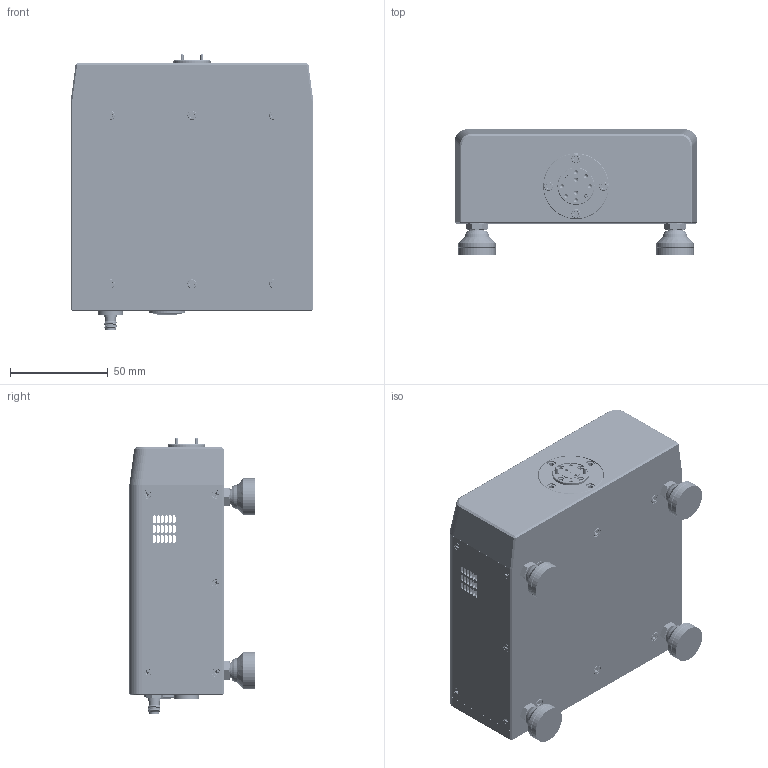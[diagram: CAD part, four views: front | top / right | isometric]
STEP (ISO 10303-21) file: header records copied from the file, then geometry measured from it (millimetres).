
FILE_DESCRIPTION (( 'STEP AP214' ), '1' );
FILE_NAME ('TE-03-A.STEP', '2025-01-09T20:17:28', ( '' ), ( '' ), 'SwSTEP 2.0', 'SolidWorks 2021', '' );
FILE_SCHEMA (( 'AUTOMOTIVE_DESIGN' ));
Length unit declared in the file: inch
Products named in the file (1): TE-03-A
Bounding box: 124.32 x 64.14 x 141.1 mm (x, y, z)
Volume: 300638.5 mm3; surface area: 153234.1 mm2
Topology: 59 solids, 59 shells, 3874 faces, 10359 edges, 6599 vertices
Faces by surface type: cylinder 1932, plane 1073, cone 683, bspline 139, torus 28, sphere 19
Entity records: 230897 total; most frequent: CARTESIAN_POINT 91545, ORIENTED_EDGE 20326, DIRECTION 16565, EDGE_CURVE 10163, VERTEX_POINT 6574, AXIS2_PLACEMENT_3D 6167, EDGE_LOOP 4247, LINE 4231
